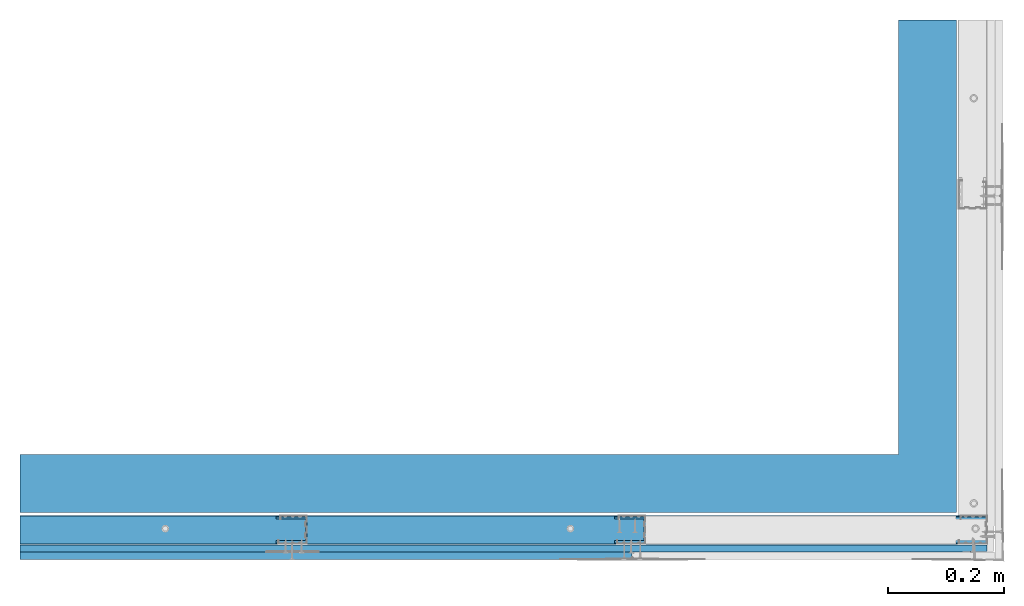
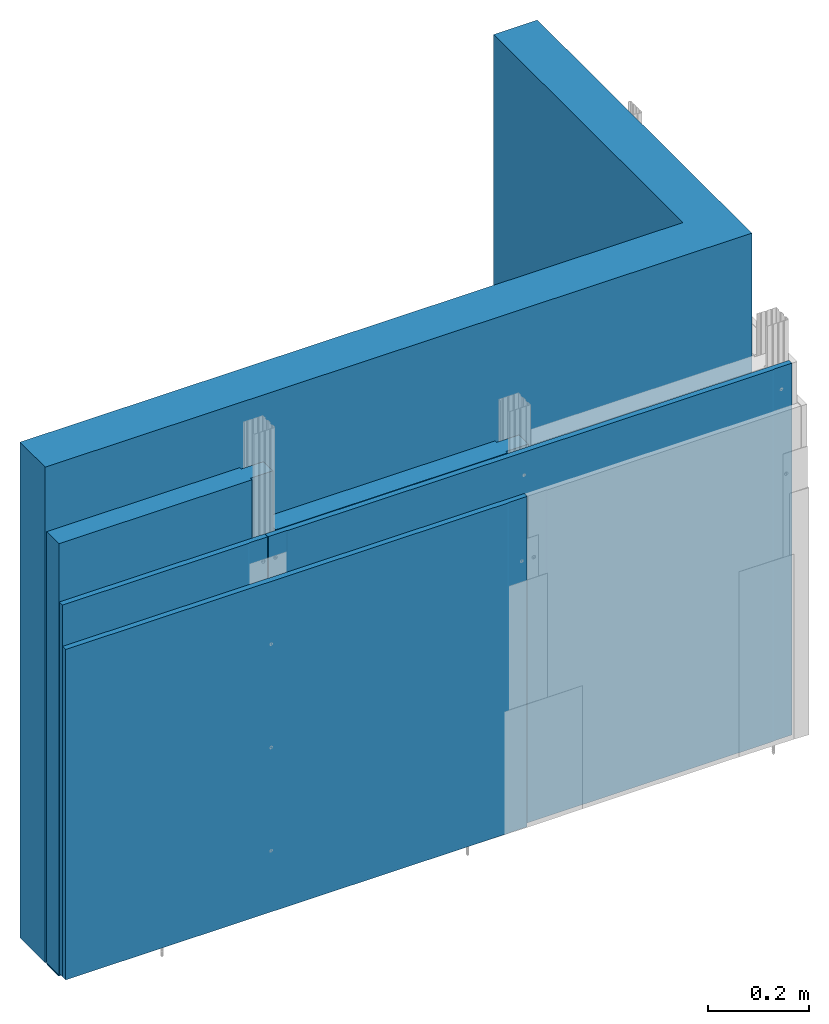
# One storey, part 1 of 43: 8 walls.
"""IFC2X3 building model written with IfcOpenShell, lengths in millimetres."""

import ifcopenshell
import ifcopenshell.guid

model = None  # the IFC model being written
_history = None  # IfcOwnerHistory: only IFC2X3 demands one
_inside = {}  # id of a spatial element -> (the spatial element, [elements in it])
_under = {}  # id of a project, library or spatial element -> (it, [spatial elements below it])
_declared = {}  # id of a project -> (the project, [libraries it declares])
_typed = {}  # id of a type object -> (the type object, [elements of that type])
_made_of = {}  # id of a material, layer set ... -> (it, [elements and type objects made of it])


def new_model(schema):
    """Start an empty IFC model of exactly this schema.

    Asked for "IFC4X3", IfcOpenShell would pick the latest addendum, in which some entities
    have other attributes; the version numbers below select the first issue.
    IFC2X3 requires an IfcOwnerHistory on every rooted entity: one is made here for all.
    """
    global model, _history
    if schema == "IFC4X3":
        model = ifcopenshell.file(schema_version=(4, 3, 0, 0))
    else:
        model = ifcopenshell.file(schema=schema)
    _inside.clear()
    _under.clear()
    _declared.clear()
    _typed.clear()
    _made_of.clear()
    _history = None
    if model.schema == "IFC2X3":
        org = make("IfcOrganization", Name="unknown")
        user = make(
            "IfcPersonAndOrganization",
            ThePerson=make("IfcPerson", FamilyName="unknown"),
            TheOrganization=org,
        )
        app = make(
            "IfcApplication",
            ApplicationDeveloper=org,
            Version="unknown",
            ApplicationFullName="unknown",
            ApplicationIdentifier="unknown",
        )
        _history = make(
            "IfcOwnerHistory",
            OwningUser=user,
            OwningApplication=app,
            ChangeAction="ADDED",
            CreationDate=0,
        )
    return model


def make(cls, **values):
    """One entity of the class cls with the attributes given. An attribute that is None is left unset."""
    return model.create_entity(
        cls, **{name: value for name, value in values.items() if value is not None}
    )


def entity(cls, *values):
    """Any entity or typed value of the class cls, its attributes in the order of the schema. None: left unset."""
    e = model.create_entity(cls)
    for i, value in enumerate(values):
        if value is not None:
            e[i] = value
    return e


def rooted(cls, **values):
    """An entity with a GlobalId (a new one), such as an element, a storey or a relation."""
    return make(cls, GlobalId=ifcopenshell.guid.new(), OwnerHistory=_history, **values)


def si_unit(unit_type, name, prefix=None):
    """IfcSIUnit, for example si_unit("LENGTHUNIT", "METRE", prefix="MILLI")."""
    return make("IfcSIUnit", UnitType=unit_type, Prefix=prefix, Name=name)


def converted_unit(unit_type, name, factor, base, dimensions=None, offset=None):
    """IfcConversionBasedUnit, such as the inch: factor (a typed value) times the base unit."""
    return make(
        "IfcConversionBasedUnit"
        if offset is None
        else "IfcConversionBasedUnitWithOffset",
        ConversionOffset=offset,
        Dimensions=None
        if dimensions is None
        else entity("IfcDimensionalExponents", *dimensions),
        UnitType=unit_type,
        Name=name,
        ConversionFactor=make(
            "IfcMeasureWithUnit", ValueComponent=factor, UnitComponent=base
        ),
    )


def assignment(units):
    """IfcUnitAssignment: the units of a project."""
    return None if units is None else make("IfcUnitAssignment", Units=units)


def point(xyz):
    """IfcCartesianPoint."""
    return None if xyz is None else make("IfcCartesianPoint", Coordinates=xyz)


def direction(xyz):
    """IfcDirection."""
    return None if xyz is None else make("IfcDirection", DirectionRatios=xyz)


def frame(location, z_axis=None, x_axis=None):
    """IfcAxis2Placement3D, a coordinate frame: its origin and axes. An axis left out is left unset."""
    return make(
        "IfcAxis2Placement3D",
        Location=point(location),
        Axis=direction(z_axis),
        RefDirection=direction(x_axis),
    )


def origin():
    """The frame at (0, 0, 0) with its axes left unset."""
    return frame((0.0, 0.0, 0.0))


def origin_with_axes():
    """The frame at (0, 0, 0) with the z axis (0, 0, 1) and the x axis (1, 0, 0) written out."""
    return frame((0.0, 0.0, 0.0), z_axis=(0.0, 0.0, 1.0), x_axis=(1.0, 0.0, 0.0))


def place(relative_to, where):
    """IfcLocalPlacement: puts the frame where relative to a parent placement (None: the world)."""
    return make(
        "IfcLocalPlacement", PlacementRelTo=relative_to, RelativePlacement=where
    )


def context(
    kind, dimensions, precision=None, world=None, true_north=None, identifier=None
):
    """IfcGeometricRepresentationContext, for example the 3D "Model" context."""
    return make(
        "IfcGeometricRepresentationContext",
        ContextIdentifier=identifier,
        ContextType=kind,
        CoordinateSpaceDimension=dimensions,
        Precision=precision,
        WorldCoordinateSystem=world,
        TrueNorth=true_north,
    )


def project(units=None, contexts=None):
    """IfcProject with its units and contexts."""
    return rooted(
        "IfcProject",
        Name="project",
        RepresentationContexts=contexts,
        UnitsInContext=assignment(units),
    )


def spatial(cls, under=None, at=None, **own):
    """A site, building, storey or space (cls), placed at a placement, below another one or the project."""
    s = rooted(cls, ObjectPlacement=at, **own)
    if under is not None:
        _under.setdefault(under.id(), (under, []))[1].append(s)
    return s


def faces_of(points, faces, orient=None, outer=None):
    """IfcFace entities. A face is a list of loops; a loop is a list of indices into points, from 0.

    orient and outer hold one flag for each loop. By default every Orientation is true, the
    first loop of a face is its IfcFaceOuterBound and the others are IfcFaceBound.
    """
    made = []
    for i, loops in enumerate(faces):
        bounds = []
        for j, loop in enumerate(loops):
            is_outer = j == 0 if outer is None else outer[i][j]
            bounds.append(
                make(
                    "IfcFaceOuterBound" if is_outer else "IfcFaceBound",
                    Bound=make("IfcPolyLoop", Polygon=[points[k] for k in loop]),
                    Orientation=True if orient is None else orient[i][j],
                )
            )
        made.append(make("IfcFace", Bounds=bounds))
    return made


def faceted_brep(points, faces, orient=None, outer=None, voids=None):
    """IfcFacetedBrep: a solid bounded by flat faces; with voids (closed shells), ...WithVoids."""
    shared = [point(p) for p in points]
    hull = make("IfcClosedShell", CfsFaces=faces_of(shared, faces, orient, outer))
    if voids is None:
        return make("IfcFacetedBrep", Outer=hull)
    return make(
        "IfcFacetedBrepWithVoids",
        Outer=hull,
        Voids=[
            make(cls, CfsFaces=faces_of(shared, fs, o, b)) for cls, fs, o, b in voids
        ],
    )


def shape(context_of_items, identifier, shape_type, items):
    """IfcShapeRepresentation: the items that make up one representation, for example the "Body"."""
    return make(
        "IfcShapeRepresentation",
        ContextOfItems=context_of_items,
        RepresentationIdentifier=identifier,
        RepresentationType=shape_type,
        Items=items,
    )


def made_of(thing, what):
    """Note that an element or type object is made of a material, layer set ...; save() writes the relation."""
    if what is not None:
        _made_of.setdefault(what.id(), (what, []))[1].append(thing)
    return thing


def element(
    cls,
    number,
    at=None,
    inside=None,
    cuts=None,
    type_object=None,
    material=None,
    context=None,
    identifier="Body",
    shape_type=None,
    held_by="IfcProductDefinitionShape",
    body=None,
    shapes=None,
    **own,
):
    """One element of the class cls, such as IfcWall. Its Tag is "e" and its number.

    at: its placement. inside: the storey or other place that contains it. cuts: it is an
    opening in that element (IfcRelVoidsElement). A single representation is given by context,
    identifier, shape_type and body (its items); several are given by shapes. held_by: the class
    of the entity that holds the representations. save() writes the other relations.
    """
    e = rooted(cls, Tag="e%d" % number, ObjectPlacement=at, **own)
    if body is not None:
        shapes = [shape(context, identifier, shape_type, body)]
    if shapes is not None:
        e.Representation = make(held_by, Representations=shapes)
    if inside is not None:
        _inside.setdefault(inside.id(), (inside, []))[1].append(e)
    if cuts is not None:
        rooted(
            "IfcRelVoidsElement", RelatingBuildingElement=cuts, RelatedOpeningElement=e
        )
    if type_object is not None:
        _typed.setdefault(type_object.id(), (type_object, []))[1].append(e)
    return made_of(e, material)


def aggregate(whole, parts):
    """IfcRelAggregates: a whole, such as a stair, and the parts it consists of."""
    return rooted("IfcRelAggregates", RelatingObject=whole, RelatedObjects=parts)


def save(model, path):
    """Write the relations noted so far, then the file.

    IfcRelAggregates (storeys below a building ...), IfcRelContainedInSpatialStructure (elements
    in a storey), IfcRelDefinesByType, IfcRelAssociatesMaterial and IfcRelDeclares: one each for
    every whole, place, type object, material and project.
    """
    for whole, parts in _under.values():
        aggregate(whole, parts)
    for where, things in _inside.values():
        rooted(
            "IfcRelContainedInSpatialStructure",
            RelatedElements=things,
            RelatingStructure=where,
        )
    for kind, things in _typed.values():
        rooted("IfcRelDefinesByType", RelatedObjects=things, RelatingType=kind)
    for what, things in _made_of.values():
        rooted("IfcRelAssociatesMaterial", RelatedObjects=things, RelatingMaterial=what)
    for by, libraries in _declared.values():
        rooted("IfcRelDeclares", RelatingContext=by, RelatedDefinitions=libraries)
    model.write(path)


model = new_model("IFC2X3")

# Units and contexts
model_context = context("Model", 3, precision=1e-05, world=origin(), true_north=direction((0.0, 1.0, 0.0)))
ifc_project = project(units=[si_unit("LENGTHUNIT", "METRE", prefix="MILLI"), si_unit("AREAUNIT", "SQUARE_METRE"), si_unit("VOLUMEUNIT", "CUBIC_METRE"), converted_unit("PLANEANGLEUNIT", "DEGREE", entity("IfcPlaneAngleMeasure", 0.01745), si_unit("PLANEANGLEUNIT", "RADIAN"), dimensions=[0, 0, 0, 0, 0, 0, 0]), si_unit("SOLIDANGLEUNIT", "STERADIAN"), si_unit("MASSUNIT", "GRAM"), si_unit("TIMEUNIT", "SECOND"), si_unit("THERMODYNAMICTEMPERATUREUNIT", "DEGREE_CELSIUS"), si_unit("LUMINOUSINTENSITYUNIT", "LUMEN")], contexts=[model_context])

# Site, building, storey
site_placement = place(None, origin_with_axes())
site = spatial("IfcSite", under=ifc_project, at=site_placement, Name="Default Site", CompositionType="ELEMENT")
building_placement = place(site_placement, origin_with_axes())
building = spatial("IfcBuilding", under=site, at=building_placement, Name="Default Building", CompositionType="ELEMENT")
storey_placement = place(building_placement, origin_with_axes())
storey = spatial("IfcBuildingStorey", under=building, at=storey_placement, Name="Default Building Storey", CompositionType="ELEMENT", Elevation=0.0)

# Walls
wall_1_placement = place(storey_placement, frame((2457.094957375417, 5447.424146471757, 8.248997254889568), z_axis=(-7.620176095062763e-14, -6.858158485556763e-13, 1.0), x_axis=(-1.0, -9.714451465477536e-17, -7.620176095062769e-14)))
element("IfcWall", 1, at=wall_1_placement, inside=storey, Name="Wełna mineralna szklana lub skalna", context=model_context, shape_type="Brep", body=[
    faceted_brep([(-161.277566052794, 3473.633223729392, -2.649999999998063), (-161.2775660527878, 3473.633223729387, 1041.75100274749), (-109.923547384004, 3473.633223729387, 1041.751002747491), (-109.9235473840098, 3473.633223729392, -2.649999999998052), (-109.923547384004, 3479.633223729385, 1041.751002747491), (-109.9235473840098, 3479.63322372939, -2.649999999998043), (-161.277566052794, 3436.833223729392, -2.649999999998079), (-161.2775660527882, 3436.833223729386, 1041.75100274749), (-109.9235473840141, 3436.833223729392, -2.649999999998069), (-109.9235473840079, 3436.833223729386, 1041.751002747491), (-109.9235473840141, 3431.283223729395, -2.649999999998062), (332.0698239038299, 3431.283223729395, -2.649999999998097), (332.0698239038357, 3431.28322372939, 1041.75100274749), (-109.9235473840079, 3431.28322372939, 1041.751002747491), (332.0698239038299, 3479.63322372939, -2.649999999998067), (332.0698239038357, 3479.633223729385, 1041.75100274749)], [[[0, 1, 2, 3]], [[3, 2, 4, 5]], [[1, 0, 6, 7]], [[7, 6, 8, 9]], [[10, 11, 12, 13]], [[9, 8, 10, 13]], [[3, 5, 14, 11, 10, 8, 6, 0]], [[4, 15, 14, 5]], [[15, 4, 2, 1, 7, 9, 13, 12]], [[14, 15, 12, 11]]]),
])
wall_2_placement = place(storey_placement, frame((2409.368770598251, 5447.424146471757, 8.248997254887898), z_axis=(-7.620176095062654e-14, -6.858158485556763e-13, 1.0), x_axis=(-1.0, -9.714451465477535e-17, -7.620176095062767e-14)))
element("IfcWall", 2, at=wall_2_placement, inside=storey, Name="Profil RIGIPS UW50 ULTRASTIL®", context=model_context, shape_type="Brep", body=[
    faceted_brep([(-1386.926362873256, 3479.733223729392, 35.00000000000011), (-1386.926362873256, 3480.283223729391, 35.00000000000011), (-1386.926362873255, 3480.283223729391, -4.19999999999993), (-1386.926362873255, 3480.273374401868, -4.32514757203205), (-1386.926362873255, 3480.244068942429, -4.447213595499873), (-1386.926362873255, 3480.196028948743, -4.563192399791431), (-1386.926362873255, 3480.130437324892, -4.670228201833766), (-1386.926362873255, 3480.04890915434, -4.765685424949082), (-1386.926362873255, 3479.953451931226, -4.84721359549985), (-1386.926362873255, 3479.846416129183, -4.912805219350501), (-1386.926362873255, 3479.730437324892, -4.960845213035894), (-1386.926362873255, 3479.608371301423, -4.990150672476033), (-1386.926362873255, 3479.483223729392, -4.999999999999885), (-1386.926362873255, 3470.908620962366, -4.999999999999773), (-1386.926362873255, 3470.686924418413, -4.975115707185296), (-1386.926362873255, 3470.476261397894, -4.901701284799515), (-1386.926362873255, 3470.128902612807, -4.626130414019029), (-1386.926362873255, 3470.009494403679, -4.437688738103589), (-1386.926362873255, 3469.68072520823, -3.762311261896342), (-1386.926362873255, 3469.561316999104, -3.573869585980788), (-1386.926362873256, 3469.403103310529, -3.416589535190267), (-1386.926362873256, 3469.213958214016, -3.298298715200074), (-1386.926362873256, 3469.003295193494, -3.224884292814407), (-1386.926362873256, 3468.781598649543, -3.19999999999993), (-1386.926362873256, 3441.78484880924, -3.199999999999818), (-1386.926362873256, 3441.563152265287, -3.224884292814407), (-1386.926362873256, 3441.352489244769, -3.298298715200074), (-1386.926362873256, 3441.163344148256, -3.416589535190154), (-1386.926362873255, 3441.005130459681, -3.573869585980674), (-1386.926362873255, 3440.885722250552, -3.762311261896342), (-1386.926362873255, 3440.556953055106, -4.437688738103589), (-1386.926362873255, 3440.437544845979, -4.626130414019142), (-1386.926362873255, 3440.279331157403, -4.783410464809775), (-1386.926362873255, 3439.87952304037, -4.97511570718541), (-1386.926362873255, 3439.657826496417, -4.999999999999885), (-1386.926362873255, 3431.083223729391, -4.999999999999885), (-1386.926362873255, 3430.95807615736, -4.990150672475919), (-1386.926362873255, 3430.836010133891, -4.960845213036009), (-1386.926362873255, 3430.7200313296, -4.912805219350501), (-1386.926362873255, 3430.612995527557, -4.847213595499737), (-1386.926362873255, 3430.517538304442, -4.765685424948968), (-1386.926362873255, 3430.436010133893, -4.670228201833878), (-1386.926362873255, 3430.370418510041, -4.563192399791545), (-1386.926362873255, 3430.322378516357, -4.447213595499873), (-1386.926362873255, 3430.293073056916, -4.32514757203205), (-1386.926362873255, 3430.283223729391, -4.19999999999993), (-1386.926362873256, 3430.283223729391, 35.00000000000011), (-1386.926362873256, 3430.833223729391, 35.00000000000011), (-1386.926362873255, 3430.833223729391, -4.19999999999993), (-1386.926362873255, 3430.836301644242, -4.239108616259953), (-1386.926362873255, 3430.845459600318, -4.277254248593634), (-1386.926362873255, 3430.860472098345, -4.313497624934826), (-1386.926362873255, 3430.880969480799, -4.34694631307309), (-1386.926362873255, 3430.906447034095, -4.376776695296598), (-1386.926362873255, 3430.93627741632, -4.402254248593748), (-1386.926362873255, 3430.969726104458, -4.422751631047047), (-1386.926362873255, 3431.005969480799, -4.437764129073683), (-1386.926362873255, 3431.044115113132, -4.446922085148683), (-1386.926362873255, 3431.083223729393, -4.44999999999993), (-1386.926362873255, 3439.313858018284, -4.450000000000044), (-1386.926362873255, 3439.535554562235, -4.425115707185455), (-1386.926362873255, 3439.746217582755, -4.351701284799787), (-1386.926362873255, 3439.935362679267, -4.233410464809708), (-1386.926362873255, 3440.093576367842, -4.076130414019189), (-1386.926362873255, 3440.21298457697, -3.88768873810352), (-1386.926362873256, 3440.541753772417, -3.212311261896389), (-1386.926362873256, 3440.661161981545, -3.023869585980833), (-1386.926362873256, 3440.819375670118, -2.866589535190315), (-1386.926362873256, 3441.219183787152, -2.674884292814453), (-1386.926362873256, 3441.440880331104, -2.649999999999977), (-1386.926362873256, 3469.125567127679, -2.649999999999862), (-1386.926362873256, 3469.347263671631, -2.674884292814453), (-1386.926362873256, 3469.557926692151, -2.748298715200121), (-1386.926362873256, 3469.905285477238, -3.023869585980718), (-1386.926362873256, 3470.024693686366, -3.212311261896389), (-1386.926362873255, 3470.353462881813, -3.88768873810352), (-1386.926362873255, 3470.472871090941, -4.076130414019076), (-1386.926362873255, 3470.631084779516, -4.233410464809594), (-1386.926362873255, 3470.82022987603, -4.351701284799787), (-1386.926362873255, 3471.030892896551, -4.425115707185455), (-1386.926362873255, 3471.252589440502, -4.44999999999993), (-1386.926362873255, 3479.483223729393, -4.449999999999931), (-1386.926362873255, 3479.522332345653, -4.446922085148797), (-1386.926362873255, 3479.560477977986, -4.437764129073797), (-1386.926362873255, 3479.596721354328, -4.422751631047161), (-1386.926362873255, 3479.630170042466, -4.402254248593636), (-1386.926362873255, 3479.660000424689, -4.376776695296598), (-1386.926362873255, 3479.685477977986, -4.34694631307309), (-1386.926362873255, 3479.705975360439, -4.313497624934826), (-1386.926362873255, 3479.720987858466, -4.277254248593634), (-1386.926362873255, 3479.730145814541, -4.239108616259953), (-1386.926362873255, 3479.733223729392, -4.19999999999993), (284.3436371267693, 3480.283223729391, -4.200000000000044), (284.3436371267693, 3480.283223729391, 35.0), (284.3436371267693, 3479.733223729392, 35.0), (284.3436371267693, 3479.733223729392, -4.200000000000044), (284.3436371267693, 3479.730145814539, -4.239108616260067), (284.3436371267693, 3479.720987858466, -4.277254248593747), (284.3436371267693, 3479.705975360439, -4.313497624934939), (284.3436371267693, 3479.685477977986, -4.346946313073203), (284.3436371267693, 3479.660000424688, -4.376776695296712), (284.3436371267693, 3479.630170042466, -4.402254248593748), (284.3436371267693, 3479.596721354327, -4.422751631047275), (284.3436371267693, 3479.560477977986, -4.43776412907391), (284.3436371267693, 3479.522332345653, -4.446922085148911), (284.3436371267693, 3479.483223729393, -4.450000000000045), (284.3436371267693, 3471.252589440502, -4.450000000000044), (284.3436371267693, 3471.03089289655, -4.425115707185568), (284.3436371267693, 3470.820229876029, -4.351701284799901), (284.3436371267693, 3470.631084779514, -4.233410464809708), (284.3436371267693, 3470.472871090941, -4.076130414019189), (284.3436371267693, 3470.353462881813, -3.887688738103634), (284.3436371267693, 3470.024693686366, -3.212311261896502), (284.3436371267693, 3469.905285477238, -3.023869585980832), (284.3436371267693, 3469.557926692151, -2.748298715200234), (284.3436371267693, 3469.34726367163, -2.674884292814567), (284.3436371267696, 3469.125567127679, -2.649999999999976), (284.3436371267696, 3441.440880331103, -2.65000000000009), (284.3436371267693, 3441.219183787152, -2.674884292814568), (284.3436371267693, 3440.819375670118, -2.866589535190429), (284.3436371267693, 3440.661161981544, -3.023869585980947), (284.3436371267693, 3440.541753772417, -3.212311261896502), (284.3436371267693, 3440.212984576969, -3.887688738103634), (284.3436371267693, 3440.093576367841, -4.076130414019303), (284.3436371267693, 3439.935362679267, -4.233410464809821), (284.3436371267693, 3439.746217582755, -4.351701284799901), (284.3436371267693, 3439.535554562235, -4.425115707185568), (284.3436371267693, 3439.313858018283, -4.450000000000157), (284.3436371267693, 3431.083223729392, -4.450000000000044), (284.3436371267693, 3431.044115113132, -4.446922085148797), (284.3436371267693, 3431.005969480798, -4.437764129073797), (284.3436371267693, 3430.969726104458, -4.422751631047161), (284.3436371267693, 3430.936277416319, -4.402254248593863), (284.3436371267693, 3430.906447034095, -4.376776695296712), (284.3436371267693, 3430.880969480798, -4.346946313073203), (284.3436371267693, 3430.860472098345, -4.313497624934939), (284.3436371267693, 3430.845459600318, -4.277254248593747), (284.3436371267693, 3430.836301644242, -4.239108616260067), (284.3436371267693, 3430.833223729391, -4.200000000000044), (284.3436371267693, 3430.833223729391, 35.0), (284.3436371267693, 3430.283223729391, 35.0), (284.3436371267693, 3430.283223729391, -4.200000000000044), (284.3436371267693, 3430.293073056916, -4.325147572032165), (284.3436371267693, 3430.322378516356, -4.447213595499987), (284.3436371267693, 3430.370418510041, -4.563192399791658), (284.3436371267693, 3430.436010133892, -4.670228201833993), (284.3436371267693, 3430.517538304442, -4.765685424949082), (284.3436371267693, 3430.612995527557, -4.84721359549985), (284.3436371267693, 3430.7200313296, -4.912805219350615), (284.3436371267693, 3430.836010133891, -4.960845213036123), (284.3436371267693, 3430.958076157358, -4.990150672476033), (284.3436371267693, 3431.083223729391, -4.999999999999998), (284.3436371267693, 3439.657826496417, -4.999999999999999), (284.3436371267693, 3439.879523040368, -4.975115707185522), (284.3436371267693, 3440.279331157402, -4.783410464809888), (284.3436371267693, 3440.437544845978, -4.626130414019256), (284.3436371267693, 3440.556953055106, -4.437688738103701), (284.3436371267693, 3440.885722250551, -3.762311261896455), (284.3436371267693, 3441.005130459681, -3.573869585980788), (284.3436371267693, 3441.163344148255, -3.416589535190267), (284.3436371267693, 3441.352489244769, -3.298298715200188), (284.3436371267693, 3441.563152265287, -3.224884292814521), (284.3436371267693, 3441.78484880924, -3.199999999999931), (284.3436371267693, 3468.781598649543, -3.200000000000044), (284.3436371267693, 3469.003295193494, -3.224884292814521), (284.3436371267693, 3469.213958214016, -3.298298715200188), (284.3436371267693, 3469.403103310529, -3.416589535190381), (284.3436371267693, 3469.561316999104, -3.573869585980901), (284.3436371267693, 3469.680725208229, -3.762311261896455), (284.3436371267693, 3470.009494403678, -4.437688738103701), (284.3436371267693, 3470.128902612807, -4.626130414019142), (284.3436371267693, 3470.476261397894, -4.901701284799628), (284.3436371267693, 3470.686924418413, -4.97511570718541), (284.3436371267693, 3470.908620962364, -4.999999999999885), (284.3436371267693, 3479.483223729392, -4.999999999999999), (284.3436371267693, 3479.608371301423, -4.990150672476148), (284.3436371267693, 3479.73043732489, -4.960845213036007), (284.3436371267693, 3479.846416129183, -4.912805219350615), (284.3436371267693, 3479.953451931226, -4.847213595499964), (284.3436371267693, 3480.04890915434, -4.765685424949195), (284.3436371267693, 3480.130437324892, -4.670228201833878), (284.3436371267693, 3480.196028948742, -4.563192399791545), (284.3436371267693, 3480.244068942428, -4.447213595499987), (284.3436371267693, 3480.273374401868, -4.325147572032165), (-1386.926362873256, 3441.008520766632, -2.748298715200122), (284.3436371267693, 3441.008520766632, -2.748298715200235), (-1386.926362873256, 3469.747071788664, -2.8665895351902), (284.3436371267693, 3469.747071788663, -2.866589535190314), (-1386.926362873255, 3470.063927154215, -4.535249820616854), (284.3436371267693, 3470.063927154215, -4.535249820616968), (-1386.926362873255, 3470.287116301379, -4.783410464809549), (284.3436371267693, 3470.287116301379, -4.783410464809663), (-1386.926362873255, 3440.09018606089, -4.901701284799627), (284.3436371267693, 3440.09018606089, -4.90170128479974)], [[[0, 1, 2, 3, 4, 5, 6, 7, 8, 9, 10, 11, 12, 13, 14, 15, 16, 17, 18, 19, 20, 21, 22, 23, 24, 25, 26, 27, 28, 29, 30, 31, 32, 33, 34, 35, 36, 37, 38, 39, 40, 41, 42, 43, 44, 45, 46, 47, 48, 49, 50, 51, 52, 53, 54, 55, 56, 57, 58, 59, 60, 61, 62, 63, 64, 65, 66, 67, 68, 69, 70, 71, 72, 73, 74, 75, 76, 77, 78, 79, 80, 81, 82, 83, 84, 85, 86, 87, 88, 89, 90, 91]], [[92, 93, 94, 95, 96, 97, 98, 99, 100, 101, 102, 103, 104, 105, 106, 107, 108, 109, 110, 111, 112, 113, 114, 115, 116, 117, 118, 119, 120, 121, 122, 123, 124, 125, 126, 127, 128, 129, 130, 131, 132, 133, 134, 135, 136, 137, 138, 139, 140, 141, 142, 143, 144, 145, 146, 147, 148, 149, 150, 151, 152, 153, 154, 155, 156, 157, 158, 159, 160, 161, 162, 163, 164, 165, 166, 167, 168, 169, 170, 171, 172, 173, 174, 175, 176, 177, 178, 179, 180, 181, 182, 183]], [[45, 141, 140, 46]], [[46, 140, 139, 47]], [[47, 139, 138, 48]], [[128, 58, 57, 129]], [[56, 130, 129, 57]], [[55, 131, 130, 56]], [[131, 55, 54, 132]], [[53, 133, 132, 54]], [[133, 53, 52, 134]], [[51, 135, 134, 52]], [[50, 136, 135, 51]], [[136, 50, 49, 137]], [[48, 138, 137, 49]], [[58, 128, 127, 59]], [[63, 123, 122, 64]], [[62, 124, 123, 63]], [[61, 125, 124, 62]], [[127, 126, 60, 59]], [[60, 126, 125, 61]], [[64, 122, 121, 65]], [[68, 118, 117, 69]], [[184, 185, 118, 68]], [[67, 119, 185, 184]], [[66, 120, 119, 67]], [[121, 120, 66, 65]], [[69, 117, 116, 70]], [[73, 113, 112, 74]], [[186, 187, 113, 73]], [[72, 114, 187, 186]], [[71, 115, 114, 72]], [[116, 115, 71, 70]], [[74, 112, 111, 75]], [[79, 107, 106, 80]], [[78, 108, 107, 79]], [[77, 109, 108, 78]], [[111, 110, 76, 75]], [[76, 110, 109, 77]], [[80, 106, 105, 81]], [[95, 91, 90, 96]], [[89, 97, 96, 90]], [[88, 98, 97, 89]], [[98, 88, 87, 99]], [[86, 100, 99, 87]], [[100, 86, 85, 101]], [[84, 102, 101, 85]], [[83, 103, 102, 84]], [[103, 83, 82, 104]], [[81, 105, 104, 82]], [[91, 95, 94, 0]], [[0, 94, 93, 1]], [[1, 93, 92, 2]], [[11, 10, 176, 175]], [[175, 174, 12, 11]], [[9, 177, 176, 10]], [[8, 7, 179, 178]], [[178, 177, 9, 8]], [[6, 5, 181, 180]], [[180, 179, 7, 6]], [[4, 182, 181, 5]], [[3, 2, 92, 183]], [[183, 182, 4, 3]], [[12, 174, 173, 13]], [[188, 16, 170, 189]], [[189, 169, 17, 188]], [[190, 191, 170, 16]], [[15, 171, 191, 190]], [[14, 172, 171, 15]], [[173, 172, 14, 13]], [[17, 169, 168, 18]], [[22, 164, 163, 23]], [[21, 165, 164, 22]], [[20, 166, 165, 21]], [[168, 167, 19, 18]], [[19, 167, 166, 20]], [[23, 163, 162, 24]], [[28, 158, 157, 29]], [[27, 159, 158, 28]], [[26, 160, 159, 27]], [[162, 161, 25, 24]], [[25, 161, 160, 26]], [[29, 157, 156, 30]], [[33, 153, 152, 34]], [[192, 193, 153, 33]], [[32, 154, 193, 192]], [[31, 155, 154, 32]], [[156, 155, 31, 30]], [[34, 152, 151, 35]], [[44, 43, 143, 142]], [[142, 141, 45, 44]], [[42, 144, 143, 43]], [[41, 40, 146, 145]], [[145, 144, 42, 41]], [[39, 38, 148, 147]], [[147, 146, 40, 39]], [[37, 149, 148, 38]], [[36, 35, 151, 150]], [[150, 149, 37, 36]]]),
])
wall_3_placement = place(storey_placement, frame((2401.683807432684, 5447.424146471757, 8.248997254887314), z_axis=(-7.620176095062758e-14, -6.858158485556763e-13, 1.0), x_axis=(-1.0, -9.714451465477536e-17, -7.620176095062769e-14)))
element("IfcWall", 3, at=wall_3_placement, inside=storey, Name="Taśma uszczelniająca piankowa RIGIPS", context=model_context, shape_type="Brep", body=[
    faceted_brep([(-1394.61132603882, 3477.783223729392, -5.000000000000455), (-1394.61132603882, 3477.862841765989, -6.006369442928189), (-1394.61132603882, 3432.691889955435, -5.864971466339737), (-1394.61132603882, 3432.783223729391, -5.000000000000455), (276.6586739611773, 3477.862841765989, -6.006369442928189), (276.658673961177, 3477.783223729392, -5.000000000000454), (276.658673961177, 3432.783223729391, -5.000000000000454), (276.658673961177, 3432.691889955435, -5.864971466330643)], [[[0, 1, 2, 3]], [[4, 5, 6, 7]], [[5, 0, 3, 6]], [[6, 3, 2, 7]], [[7, 2, 1, 4]], [[4, 1, 0, 5]]]),
])
wall_4_placement = place(storey_placement, frame((2351.114255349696, 5432.424146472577, 6.584025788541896), z_axis=(-7.620176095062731e-14, -6.858158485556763e-13, 1.0), x_axis=(-1.0, -9.714451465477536e-17, -7.62017609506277e-14)))
element("IfcWall", 4, at=wall_4_placement, inside=storey, Name="ŚCIANA", context=model_context, shape_type="Brep", body=[
    faceted_brep([(-1291.926362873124, 3310.28322372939, -4.200000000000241), (-1291.926362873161, 3310.283223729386, 1195.799999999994), (-1291.926362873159, 2559.407642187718, 1195.799999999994), (-1291.926362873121, 2559.407642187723, -4.200000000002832), (-1391.926362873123, 2559.407642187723, -4.200000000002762), (-1391.926362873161, 2559.407642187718, 1195.800000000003), (-1391.926362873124, 3410.28322372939, -4.20000000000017), (226.0891218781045, 3410.28322372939, -4.200000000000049), (226.0891218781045, 3310.283223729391, -4.200000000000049), (226.0891218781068, 3410.28322372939, 1195.799999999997), (-1391.926362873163, 3410.28322372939, 1195.8), (226.0891218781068, 3310.283223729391, 1195.799999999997)], [[[0, 1, 2, 3]], [[4, 3, 2, 5]], [[6, 7, 8, 0, 3, 4]], [[9, 10, 5, 2, 1, 11]], [[11, 1, 0, 8]], [[11, 8, 7, 9]], [[6, 10, 9, 7]], [[6, 4, 5, 10]]]),
])
wall_5_placement = place(storey_placement, frame((3796.295133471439, 1966.180077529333, 1159.999999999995), z_axis=(0.0, 0.0, 1.0), x_axis=(-1.0, -6.389333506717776e-13, 0.0)))
element("IfcWall", 5, at=wall_5_placement, inside=storey, Name="Płyta gipsowo-kartonowa RIGIPS PRO (4PRO™)", context=model_context, shape_type="Brep", body=[
    faceted_brep([(1199.866025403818, 10.99999999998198, -249.9999999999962), (1199.965925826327, 10.75881904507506, -249.9999999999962), (1199.965925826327, 10.75881904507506, -1150.001581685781), (1199.866025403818, 10.99999999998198, -1150.001581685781), (1199.707106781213, 11.20710678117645, -249.9999999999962), (1199.707106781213, 11.20710678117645, -1150.001581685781), (1199.50000000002, 11.36602540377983, -249.9999999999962), (1199.50000000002, 11.36602540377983, -1150.001581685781), (1199.258819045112, 11.46592582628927, -249.9999999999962), (1199.258819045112, 11.46592582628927, -1150.001581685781), (1199.0, 11.50000000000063, -249.9999999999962), (1199.0, 11.50000000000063, -1150.001581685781), (1158.999999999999, 11.50000000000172, -249.9999999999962), (1158.999999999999, 11.50000000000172, -1150.001581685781), (1155.000000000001, 12.49999999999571, -249.9999999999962), (1155.000000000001, 12.49999999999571, -1150.001581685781), (44.99999999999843, 12.50000000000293, -249.9999999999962), (44.99999999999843, 12.50000000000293, -1150.001581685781), (40.99999999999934, 11.50000000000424, -249.9999999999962), (40.99999999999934, 11.50000000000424, -1150.001581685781), (0.9999999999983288, 11.5000000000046, -249.9999999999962), (0.9999999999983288, 11.5000000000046, -1150.001581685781), (0.7411809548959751, 11.46592582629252, -249.9999999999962), (0.7411809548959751, 11.46592582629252, -1150.001581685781), (0.4999999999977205, 11.3660254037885, -249.9999999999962), (0.4999999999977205, 11.3660254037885, -1150.001581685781), (0.29289321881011, 11.20710678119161, -249.9999999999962), (0.29289321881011, 11.20710678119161, -1150.001581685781), (0.1339745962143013, 11.00000000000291, -249.9999999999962), (0.1339745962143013, 11.00000000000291, -1150.001581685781), (0.03407417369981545, 10.7588190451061, -249.9999999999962), (0.03407417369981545, 10.7588190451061, -1150.001581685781), (-2.887645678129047e-12, 10.50000000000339, -249.9999999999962), (-2.887645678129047e-12, 10.50000000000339, -1150.001581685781), (0.0, 0.0, -249.9999999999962), (0.0, 0.0, -1150.001581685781), (1200.0, 0.0, -249.9999999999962), (1200.0, 0.0, -1150.001581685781), (1200.000000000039, 10.49999999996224, -249.9999999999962), (1200.000000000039, 10.49999999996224, -1150.001581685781)], [[[0, 1, 2, 3]], [[4, 0, 3, 5]], [[6, 4, 5, 7]], [[8, 6, 7, 9]], [[10, 8, 9, 11]], [[12, 10, 11, 13]], [[14, 12, 13, 15]], [[16, 14, 15, 17]], [[18, 16, 17, 19]], [[20, 18, 19, 21]], [[22, 20, 21, 23]], [[24, 22, 23, 25]], [[26, 24, 25, 27]], [[28, 26, 27, 29]], [[30, 28, 29, 31]], [[32, 30, 31, 33]], [[34, 32, 33, 35]], [[36, 34, 35, 37]], [[38, 36, 37, 39]], [[1, 38, 39, 2]], [[2, 39, 37, 35, 33, 31, 29, 27, 25, 23, 21, 19, 17, 15, 13, 11, 9, 7, 5, 3]], [[12, 14, 16, 18, 20, 22, 24, 26, 28, 30, 32, 34, 36, 38, 1, 0, 4, 6, 8, 10]]]),
])
wall_6_placement = place(storey_placement, frame((3042.158477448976, 5447.424146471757, 8.248997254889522), z_axis=(-7.620176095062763e-14, -6.858158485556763e-13, 1.0), x_axis=(-1.0, -9.714451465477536e-17, -7.620176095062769e-14)))
element("IfcWall", 6, at=wall_6_placement, inside=storey, Name="Wełna mineralna szklana lub skalna", context=model_context, shape_type="Brep", body=[
    faceted_brep([(-161.2775660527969, 3473.633223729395, -2.649999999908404), (-161.2775660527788, 3473.633223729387, 901.7510027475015), (-109.9235473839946, 3473.633223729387, 901.7510027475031), (-109.9235473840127, 3473.633223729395, -2.649999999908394), (-109.9235473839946, 3479.633223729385, 901.7510027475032), (-109.9235473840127, 3479.633223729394, -2.649999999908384), (-161.2775660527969, 3436.833223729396, -2.64999999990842), (-161.2775660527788, 3436.833223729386, 901.751002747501), (-109.923547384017, 3436.833223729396, -2.64999999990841), (-109.9235473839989, 3436.833223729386, 901.7510027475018), (-109.923547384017, 3431.283223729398, -2.649999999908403), (421.4904507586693, 3431.283223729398, -2.649999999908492), (421.4904507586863, 3431.28322372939, 901.7510027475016), (-109.9235473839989, 3431.28322372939, 901.7510027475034), (421.4904507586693, 3479.633223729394, -2.649999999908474), (421.4904507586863, 3479.633223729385, 901.751002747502)], [[[0, 1, 2, 3]], [[3, 2, 4, 5]], [[1, 0, 6, 7]], [[7, 6, 8, 9]], [[10, 11, 12, 13]], [[9, 8, 10, 13]], [[3, 5, 14, 11, 10, 8, 6, 0]], [[4, 15, 14, 5]], [[15, 4, 2, 1, 7, 9, 13, 12]], [[14, 15, 12, 11]]]),
])
wall_7_placement = place(storey_placement, frame((2595.295133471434, 1966.180077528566, 1159.999999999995), z_axis=(0.0, 0.0, 1.0), x_axis=(-1.0, -6.389333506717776e-13, 0.0)))
element("IfcWall", 7, at=wall_7_placement, inside=storey, Name="Płyta gipsowo-kartonowa RIGIPS PRO (4PRO™)", context=model_context, shape_type="Brep", body=[
    faceted_brep([(470.2699999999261, 12.49999999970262, -250.0000000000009), (470.2699999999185, -2.988713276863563e-10, -250.0000000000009), (470.2699999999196, -2.985103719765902e-10, -1150.00158168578), (470.2699999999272, 12.49999999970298, -1150.00158168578), (0.0, 0.0, -249.9999999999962), (44.99999999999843, 12.50000000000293, -249.9999999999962), (40.99999999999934, 11.50000000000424, -249.9999999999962), (0.9999999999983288, 11.5000000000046, -249.9999999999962), (0.7411809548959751, 11.46592582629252, -249.9999999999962), (0.4999999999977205, 11.3660254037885, -249.9999999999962), (0.2928932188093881, 11.20710678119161, -249.9999999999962), (0.1339745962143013, 11.00000000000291, -249.9999999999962), (0.03407417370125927, 10.7588190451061, -249.9999999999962), (-3.609557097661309e-12, 10.50000000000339, -249.9999999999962), (44.99999999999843, 12.50000000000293, -1150.001581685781), (40.99999999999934, 11.50000000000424, -1150.001581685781), (0.9999999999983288, 11.5000000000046, -1150.001581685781), (0.7411809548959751, 11.46592582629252, -1150.001581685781), (0.4999999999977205, 11.3660254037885, -1150.001581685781), (0.2928932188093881, 11.20710678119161, -1150.001581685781), (0.1339745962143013, 11.00000000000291, -1150.001581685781), (0.03407417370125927, 10.7588190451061, -1150.001581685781), (-3.609557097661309e-12, 10.50000000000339, -1150.001581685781), (0.0, 0.0, -1150.001581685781)], [[[0, 1, 2, 3]], [[4, 1, 0, 5, 6, 7, 8, 9, 10, 11, 12, 13]], [[0, 3, 14, 5]], [[6, 5, 14, 15]], [[7, 6, 15, 16]], [[8, 7, 16, 17]], [[9, 8, 17, 18]], [[10, 9, 18, 19]], [[11, 10, 19, 20]], [[12, 11, 20, 21]], [[13, 12, 21, 22]], [[4, 13, 22, 23]], [[23, 2, 1, 4]], [[14, 3, 2, 23, 22, 21, 20, 19, 18, 17, 16, 15]]]),
])
wall_8_placement = place(storey_placement, frame((3182.218411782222, 1953.680077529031, 1059.999999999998), z_axis=(0.0, 0.0, 1.0), x_axis=(-1.0, -6.389333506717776e-13, 0.0)))
element("IfcWall", 8, at=wall_8_placement, inside=storey, Name="Płyta gipsowo-kartonowa RIGIPS PRO (4PRO™)", context=model_context, shape_type="Brep", body=[
    faceted_brep([(1057.193278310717, 12.49999999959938, -250.0000000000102), (1057.19327831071, -4.021046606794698e-10, -250.0000000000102), (1057.193278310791, -3.064513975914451e-10, -1050.001581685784), (1057.193278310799, 12.49999999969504, -1050.001581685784), (44.99999999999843, 12.50000000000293, -1050.001581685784), (44.99999999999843, 12.50000000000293, -249.9999999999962), (40.99999999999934, 11.50000000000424, -249.9999999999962), (40.99999999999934, 11.50000000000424, -1050.001581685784), (0.9999999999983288, 11.5000000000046, -249.9999999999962), (0.9999999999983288, 11.5000000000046, -1050.001581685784), (0.7411809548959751, 11.46592582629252, -249.9999999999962), (0.7411809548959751, 11.46592582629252, -1050.001581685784), (0.4999999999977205, 11.3660254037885, -249.9999999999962), (0.4999999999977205, 11.3660254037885, -1050.001581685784), (0.29289321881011, 11.20710678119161, -249.9999999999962), (0.29289321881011, 11.20710678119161, -1050.001581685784), (0.1339745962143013, 11.00000000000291, -249.9999999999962), (0.1339745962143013, 11.00000000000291, -1050.001581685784), (0.03407417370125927, 10.7588190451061, -249.9999999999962), (0.03407417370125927, 10.7588190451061, -1050.001581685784), (-4.33146851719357e-12, 10.50000000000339, -249.9999999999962), (-4.33146851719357e-12, 10.50000000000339, -1050.001581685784), (0.0, 0.0, -249.9999999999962), (0.0, 0.0, -1050.001581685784)], [[[0, 1, 2, 3]], [[0, 3, 4, 5]], [[6, 5, 4, 7]], [[8, 6, 7, 9]], [[10, 8, 9, 11]], [[12, 10, 11, 13]], [[14, 12, 13, 15]], [[16, 14, 15, 17]], [[18, 16, 17, 19]], [[20, 18, 19, 21]], [[22, 20, 21, 23]], [[23, 2, 1, 22]], [[4, 3, 2, 23, 21, 19, 17, 15, 13, 11, 9, 7]], [[1, 0, 5, 6, 8, 10, 12, 14, 16, 18, 20, 22]]]),
])

save(model, "model.ifc")
